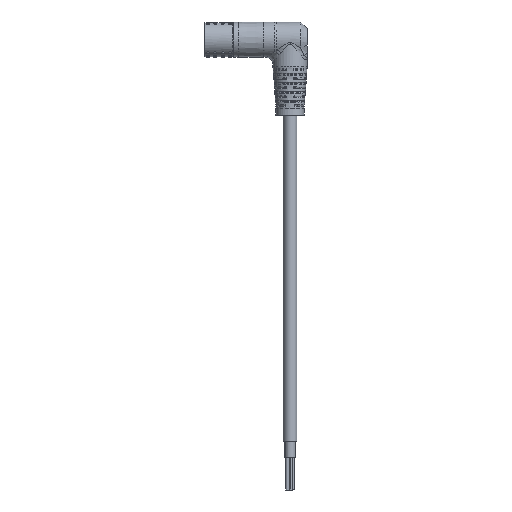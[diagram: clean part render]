
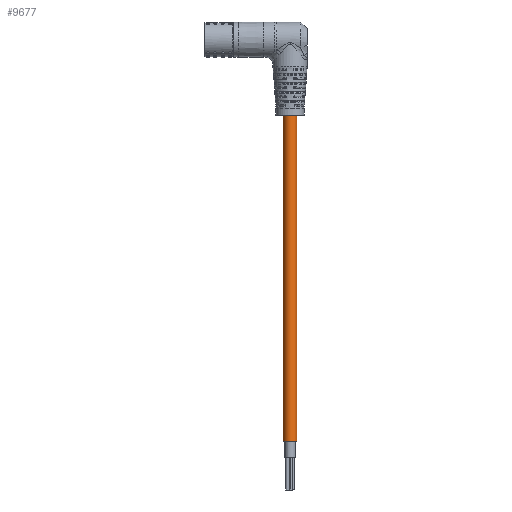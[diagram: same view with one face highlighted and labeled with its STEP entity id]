
A CAD part, front view. The second image highlights one B-rep face of the part: STEP entity #9677.
In plain terms, the highlighted cylindrical face has radius 4.2 mm (diameter 8.4 mm), a full revolution.
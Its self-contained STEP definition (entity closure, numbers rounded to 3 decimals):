
#1953 = CIRCLE ( 'NONE', #24350, 4.2 ) ;
#1986 = ORIENTED_EDGE ( 'NONE', *, *, #35712, .F. ) ;
#2854 = EDGE_CURVE ( 'NONE', #30886, #30886, #3843, .T. ) ;
#3843 = CIRCLE ( 'NONE', #10497, 4.2 ) ;
#5777 = CYLINDRICAL_SURFACE ( 'NONE', #36701, 4.2 ) ;
#5792 = CARTESIAN_POINT ( 'NONE',  ( -43.259, 42.123, -59.463 ) ) ;
#6246 = VERTEX_POINT ( 'NONE', #17821 ) ;
#8344 = EDGE_LOOP ( 'NONE', ( #1986 ) ) ;
#9200 = DIRECTION ( 'NONE',  ( 0., 0., 1. ) ) ;
#9677 = ADVANCED_FACE ( 'NONE', ( #31360, #26063 ), #5777, .T. ) ;
#10497 = AXIS2_PLACEMENT_3D ( 'NONE', #14501, #9200, #20763 ) ;
#14501 = CARTESIAN_POINT ( 'NONE',  ( -43.259, 42.123, -259.463 ) ) ;
#14512 = DIRECTION ( 'NONE',  ( 0.48, 0.877, 0. ) ) ;
#16672 = CARTESIAN_POINT ( 'NONE',  ( -41.243, 45.807, -259.463 ) ) ;
#17821 = CARTESIAN_POINT ( 'NONE',  ( -41.243, 45.807, -59.463 ) ) ;
#19737 = ORIENTED_EDGE ( 'NONE', *, *, #2854, .T. ) ;
#20763 = DIRECTION ( 'NONE',  ( 0.48, 0.877, 0. ) ) ;
#22079 = EDGE_LOOP ( 'NONE', ( #19737 ) ) ;
#24350 = AXIS2_PLACEMENT_3D ( 'NONE', #5792, #28918, #14512 ) ;
#25493 = CARTESIAN_POINT ( 'NONE',  ( -43.259, 42.123, -259.463 ) ) ;
#26063 = FACE_OUTER_BOUND ( 'NONE', #8344, .T. ) ;
#28138 = DIRECTION ( 'NONE',  ( 0., 0., 1. ) ) ;
#28713 = DIRECTION ( 'NONE',  ( 0.48, 0.877, 0. ) ) ;
#28918 = DIRECTION ( 'NONE',  ( 0., 0., 1. ) ) ;
#30886 = VERTEX_POINT ( 'NONE', #16672 ) ;
#31360 = FACE_OUTER_BOUND ( 'NONE', #22079, .T. ) ;
#35712 = EDGE_CURVE ( 'NONE', #6246, #6246, #1953, .T. ) ;
#36701 = AXIS2_PLACEMENT_3D ( 'NONE', #25493, #28138, #28713 ) ;
